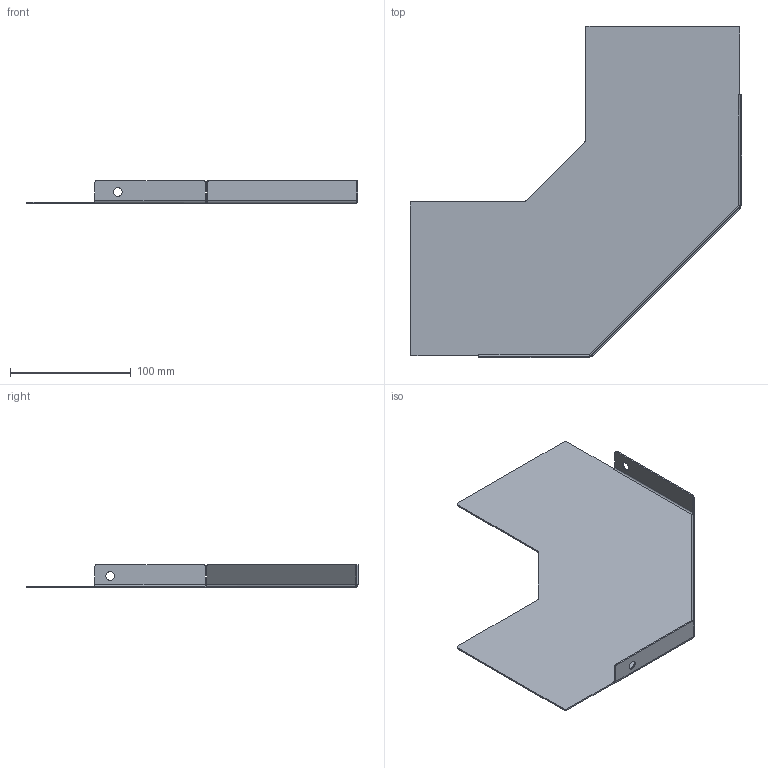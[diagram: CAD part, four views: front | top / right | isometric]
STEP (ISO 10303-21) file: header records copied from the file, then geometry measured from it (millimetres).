
FILE_DESCRIPTION (( 'STEP AP214' ), '1' );
FILE_NAME ('ct66deic90ss.STEP', '2007-05-29T12:44:46', ( '' ), ( '' ), 'SwSTEP 2.0', 'SolidWorks 2007', '' );
FILE_SCHEMA (( 'AUTOMOTIVE_DESIGN' ));
Length unit declared in the file: inch
Products named in the file (1): ct66deic90ss
Bounding box: 275.41 x 275.41 x 19.05 mm (x, y, z)
Volume: 65386.4 mm3; surface area: 109099.1 mm2
Topology: 1 solids, 1 shells, 54 faces, 134 edges, 82 vertices
Faces by surface type: plane 28, cylinder 22, bspline 4
Entity records: 1707 total; most frequent: CARTESIAN_POINT 403, ORIENTED_EDGE 268, DIRECTION 266, EDGE_CURVE 134, AXIS2_PLACEMENT_3D 89, VECTOR 88, LINE 88, VERTEX_POINT 82
